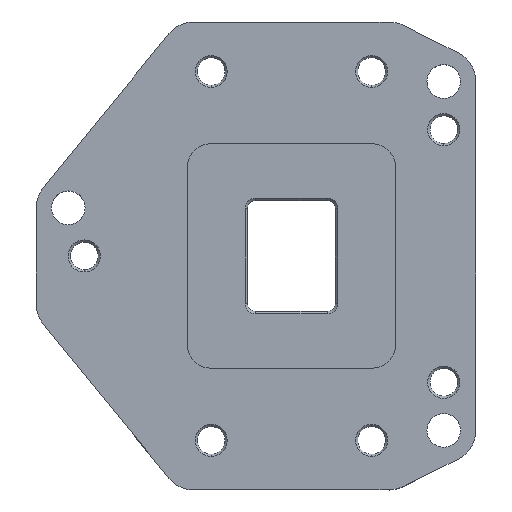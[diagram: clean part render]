
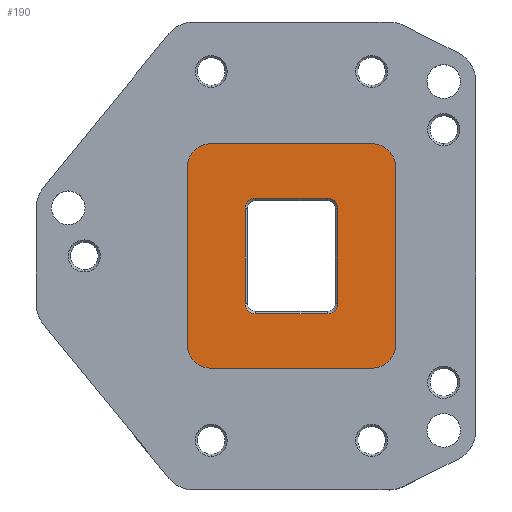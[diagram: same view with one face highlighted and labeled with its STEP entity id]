
A CAD part, top view. The second image highlights one B-rep face of the part: STEP entity #190.
In plain terms, the highlighted planar face has unit normal (0, 0, 1).
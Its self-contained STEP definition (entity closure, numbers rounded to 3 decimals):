
#190=ADVANCED_FACE('',(#442,#314),#1210,.T.);
#314=FACE_OUTER_BOUND('',#495,.F.);
#442=FACE_BOUND('',#494,.F.);
#494=EDGE_LOOP('',(#758,#759,#760,#761,#762,#763,#764,#765));
#495=EDGE_LOOP('',(#766,#767,#768,#769,#770,#771,#772,#773));
#758=ORIENTED_EDGE('',*,*,#1637,.F.);
#759=ORIENTED_EDGE('',*,*,#1630,.F.);
#760=ORIENTED_EDGE('',*,*,#1631,.F.);
#761=ORIENTED_EDGE('',*,*,#1632,.F.);
#762=ORIENTED_EDGE('',*,*,#1633,.F.);
#763=ORIENTED_EDGE('',*,*,#1634,.F.);
#764=ORIENTED_EDGE('',*,*,#1635,.F.);
#765=ORIENTED_EDGE('',*,*,#1636,.F.);
#766=ORIENTED_EDGE('',*,*,#1638,.T.);
#767=ORIENTED_EDGE('',*,*,#1639,.F.);
#768=ORIENTED_EDGE('',*,*,#1640,.T.);
#769=ORIENTED_EDGE('',*,*,#1641,.F.);
#770=ORIENTED_EDGE('',*,*,#1642,.T.);
#771=ORIENTED_EDGE('',*,*,#1643,.F.);
#772=ORIENTED_EDGE('',*,*,#1644,.T.);
#773=ORIENTED_EDGE('',*,*,#1645,.F.);
#1210=PLANE('',#2264);
#1270=LINE('',#3375,#1416);
#1271=LINE('',#3377,#1417);
#1272=LINE('',#3379,#1418);
#1273=LINE('',#3381,#1419);
#1274=LINE('',#3384,#1420);
#1275=LINE('',#3386,#1421);
#1276=LINE('',#3388,#1422);
#1277=LINE('',#3390,#1423);
#1416=VECTOR('',#2608,5.902);
#1417=VECTOR('',#2611,4.477);
#1418=VECTOR('',#2614,5.902);
#1419=VECTOR('',#2617,4.477);
#1420=VECTOR('',#2622,11.);
#1421=VECTOR('',#2625,10.);
#1422=VECTOR('',#2628,11.);
#1423=VECTOR('',#2631,10.);
#1630=EDGE_CURVE('',#2007,#2006,#1270,.T.);
#1631=EDGE_CURVE('',#2005,#2007,#1888,.T.);
#1632=EDGE_CURVE('',#2004,#2005,#1271,.T.);
#1633=EDGE_CURVE('',#2003,#2004,#1889,.T.);
#1634=EDGE_CURVE('',#2002,#2003,#1272,.T.);
#1635=EDGE_CURVE('',#2001,#2002,#1890,.T.);
#1636=EDGE_CURVE('',#2000,#2001,#1273,.T.);
#1637=EDGE_CURVE('',#2006,#2000,#1891,.T.);
#1638=EDGE_CURVE('',#1999,#1998,#1892,.T.);
#1639=EDGE_CURVE('',#1997,#1998,#1274,.T.);
#1640=EDGE_CURVE('',#1997,#1996,#1893,.T.);
#1641=EDGE_CURVE('',#1995,#1996,#1275,.T.);
#1642=EDGE_CURVE('',#1995,#1994,#1894,.T.);
#1643=EDGE_CURVE('',#1993,#1994,#1276,.T.);
#1644=EDGE_CURVE('',#1993,#1992,#1895,.T.);
#1645=EDGE_CURVE('',#1999,#1992,#1277,.T.);
#1888=CIRCLE('',#2222,0.65);
#1889=CIRCLE('',#2223,0.65);
#1890=CIRCLE('',#2224,0.65);
#1891=CIRCLE('',#2225,0.65);
#1892=CIRCLE('',#2226,1.5);
#1893=CIRCLE('',#2227,1.5);
#1894=CIRCLE('',#2228,1.5);
#1895=CIRCLE('',#2229,1.5);
#1992=VERTEX_POINT('',#3167);
#1993=VERTEX_POINT('',#3168);
#1994=VERTEX_POINT('',#3169);
#1995=VERTEX_POINT('',#3170);
#1996=VERTEX_POINT('',#3171);
#1997=VERTEX_POINT('',#3172);
#1998=VERTEX_POINT('',#3173);
#1999=VERTEX_POINT('',#3174);
#2000=VERTEX_POINT('',#3175);
#2001=VERTEX_POINT('',#3176);
#2002=VERTEX_POINT('',#3177);
#2003=VERTEX_POINT('',#3178);
#2004=VERTEX_POINT('',#3179);
#2005=VERTEX_POINT('',#3180);
#2006=VERTEX_POINT('',#3181);
#2007=VERTEX_POINT('',#3182);
#2222=AXIS2_PLACEMENT_3D('',#3376,#2609,#2610);
#2223=AXIS2_PLACEMENT_3D('',#3378,#2612,#2613);
#2224=AXIS2_PLACEMENT_3D('',#3380,#2615,#2616);
#2225=AXIS2_PLACEMENT_3D('',#3382,#2618,#2619);
#2226=AXIS2_PLACEMENT_3D('',#3383,#2620,#2621);
#2227=AXIS2_PLACEMENT_3D('',#3385,#2623,#2624);
#2228=AXIS2_PLACEMENT_3D('',#3387,#2626,#2627);
#2229=AXIS2_PLACEMENT_3D('',#3389,#2629,#2630);
#2264=AXIS2_PLACEMENT_3D('',#3485,#2760,#2761);
#2608=DIRECTION('',(0.,-1.,0.));
#2609=DIRECTION('',(0.,0.,-1.));
#2610=DIRECTION('',(0.,1.,0.));
#2611=DIRECTION('',(1.,0.,0.));
#2612=DIRECTION('',(0.,0.,-1.));
#2613=DIRECTION('',(-1.,0.,0.));
#2614=DIRECTION('',(0.,1.,0.));
#2615=DIRECTION('',(0.,0.,-1.));
#2616=DIRECTION('',(0.,-1.,0.));
#2617=DIRECTION('',(-1.,0.,0.));
#2618=DIRECTION('',(0.,0.,-1.));
#2619=DIRECTION('',(1.,0.,0.));
#2620=DIRECTION('',(0.,0.,-1.));
#2621=DIRECTION('',(0.,1.,0.));
#2622=DIRECTION('',(0.,1.,0.));
#2623=DIRECTION('',(0.,0.,-1.));
#2624=DIRECTION('',(1.,0.,0.));
#2625=DIRECTION('',(1.,0.,0.));
#2626=DIRECTION('',(0.,0.,-1.));
#2627=DIRECTION('',(0.,-1.,0.));
#2628=DIRECTION('',(0.,-1.,0.));
#2629=DIRECTION('',(0.,0.,-1.));
#2630=DIRECTION('',(-1.,0.,0.));
#2631=DIRECTION('',(-1.,0.,0.));
#2760=DIRECTION('',(0.,0.,1.));
#2761=DIRECTION('',(-1.,0.,0.));
#3167=CARTESIAN_POINT('',(45.,7.,-95.25));
#3168=CARTESIAN_POINT('',(43.5,5.5,-95.25));
#3169=CARTESIAN_POINT('',(43.5,-5.5,-95.25));
#3170=CARTESIAN_POINT('',(45.,-7.,-95.25));
#3171=CARTESIAN_POINT('',(55.,-7.,-95.25));
#3172=CARTESIAN_POINT('',(56.5,-5.5,-95.25));
#3173=CARTESIAN_POINT('',(56.5,5.5,-95.25));
#3174=CARTESIAN_POINT('',(55.,7.,-95.25));
#3175=CARTESIAN_POINT('',(52.239,-3.601,-95.25));
#3176=CARTESIAN_POINT('',(47.762,-3.601,-95.25));
#3177=CARTESIAN_POINT('',(47.112,-2.951,-95.25));
#3178=CARTESIAN_POINT('',(47.112,2.951,-95.25));
#3179=CARTESIAN_POINT('',(47.762,3.601,-95.25));
#3180=CARTESIAN_POINT('',(52.239,3.601,-95.25));
#3181=CARTESIAN_POINT('',(52.889,-2.951,-95.25));
#3182=CARTESIAN_POINT('',(52.889,2.951,-95.25));
#3375=CARTESIAN_POINT('',(52.889,2.951,-95.25));
#3376=CARTESIAN_POINT('',(52.239,2.951,-95.25));
#3377=CARTESIAN_POINT('',(47.762,3.601,-95.25));
#3378=CARTESIAN_POINT('',(47.762,2.951,-95.25));
#3379=CARTESIAN_POINT('',(47.112,-2.951,-95.25));
#3380=CARTESIAN_POINT('',(47.762,-2.951,-95.25));
#3381=CARTESIAN_POINT('',(52.239,-3.601,-95.25));
#3382=CARTESIAN_POINT('',(52.239,-2.951,-95.25));
#3383=CARTESIAN_POINT('',(55.,5.5,-95.25));
#3384=CARTESIAN_POINT('',(56.5,-5.5,-95.25));
#3385=CARTESIAN_POINT('',(55.,-5.5,-95.25));
#3386=CARTESIAN_POINT('',(45.,-7.,-95.25));
#3387=CARTESIAN_POINT('',(45.,-5.5,-95.25));
#3388=CARTESIAN_POINT('',(43.5,5.5,-95.25));
#3389=CARTESIAN_POINT('',(45.,5.5,-95.25));
#3390=CARTESIAN_POINT('',(55.,7.,-95.25));
#3485=CARTESIAN_POINT('',(56.642,-7.142,-95.25));
